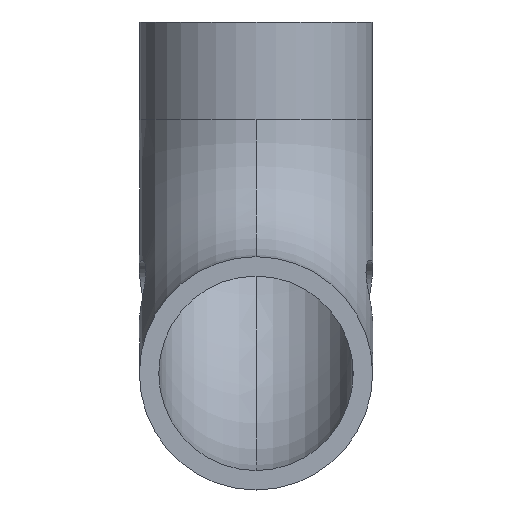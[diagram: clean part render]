
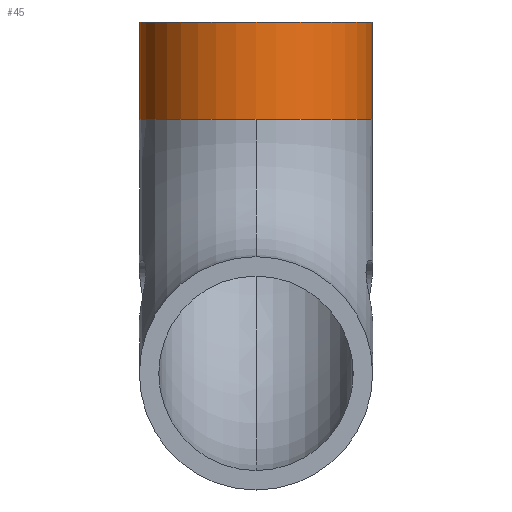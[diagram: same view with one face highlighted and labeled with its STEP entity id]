
A CAD part, front view. The second image highlights one B-rep face of the part: STEP entity #45.
In plain terms, the highlighted cylindrical face has radius 30.48 mm (diameter 60.96 mm), a partial arc.
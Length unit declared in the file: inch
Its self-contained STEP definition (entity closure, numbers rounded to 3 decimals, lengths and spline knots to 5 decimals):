
#15 = DIRECTION ( 'NONE',  ( 0., 0., -1. ) ) ;
#29 = ORIENTED_EDGE ( 'NONE', *, *, #477, .F. ) ;
#45 = ADVANCED_FACE ( 'NONE', ( #256 ), #270, .T. ) ;
#58 = ORIENTED_EDGE ( 'NONE', *, *, #946, .F. ) ;
#112 = AXIS2_PLACEMENT_3D ( 'NONE', #880, #875, #871 ) ;
#115 = AXIS2_PLACEMENT_3D ( 'NONE', #454, #15, #249 ) ;
#137 = CARTESIAN_POINT ( 'NONE',  ( 1.2, 1.2, 0. ) ) ;
#157 = VERTEX_POINT ( 'NONE', #297 ) ;
#169 = ORIENTED_EDGE ( 'NONE', *, *, #635, .F. ) ;
#175 = CARTESIAN_POINT ( 'NONE',  ( -1.2, 1.2, 0. ) ) ;
#244 = VERTEX_POINT ( 'NONE', #175 ) ;
#249 = DIRECTION ( 'NONE',  ( -1., 0., 0. ) ) ;
#253 = CIRCLE ( 'NONE', #115, 1.2 ) ;
#256 = FACE_OUTER_BOUND ( 'NONE', #807, .T. ) ;
#270 = CYLINDRICAL_SURFACE ( 'NONE', #773, 1.2 ) ;
#275 = DIRECTION ( 'NONE',  ( 1., 0., 0. ) ) ;
#277 = CARTESIAN_POINT ( 'NONE',  ( -1.2, 1.2, 0. ) ) ;
#290 = CIRCLE ( 'NONE', #841, 1.2 ) ;
#297 = CARTESIAN_POINT ( 'NONE',  ( 1.2, 1.2, -1. ) ) ;
#319 = VERTEX_POINT ( 'NONE', #350 ) ;
#350 = CARTESIAN_POINT ( 'NONE',  ( 0., 0., -1. ) ) ;
#392 = VERTEX_POINT ( 'NONE', #801 ) ;
#396 = ORIENTED_EDGE ( 'NONE', *, *, #837, .T. ) ;
#427 = DIRECTION ( 'NONE',  ( 0., 0., 1. ) ) ;
#454 = CARTESIAN_POINT ( 'NONE',  ( 0., 1.2, -1. ) ) ;
#477 = EDGE_CURVE ( 'NONE', #319, #911, #290, .T. ) ;
#488 = DIRECTION ( 'NONE',  ( -1., 0., 0. ) ) ;
#523 = CIRCLE ( 'NONE', #112, 1.2 ) ;
#578 = DIRECTION ( 'NONE',  ( 0., 0., 1. ) ) ;
#585 = VECTOR ( 'NONE', #427, 39.37008 ) ;
#598 = VECTOR ( 'NONE', #578, 39.37008 ) ;
#619 = CARTESIAN_POINT ( 'NONE',  ( -1.2, 1.2, -1. ) ) ;
#635 = EDGE_CURVE ( 'NONE', #244, #392, #523, .T. ) ;
#644 = CARTESIAN_POINT ( 'NONE',  ( 0., 1.2, -1. ) ) ;
#651 = CARTESIAN_POINT ( 'NONE',  ( 0., 1.2, 0. ) ) ;
#657 = ORIENTED_EDGE ( 'NONE', *, *, #712, .F. ) ;
#659 = LINE ( 'NONE', #137, #585 ) ;
#712 = EDGE_CURVE ( 'NONE', #911, #244, #936, .T. ) ;
#773 = AXIS2_PLACEMENT_3D ( 'NONE', #651, #933, #275 ) ;
#801 = CARTESIAN_POINT ( 'NONE',  ( 1.2, 1.2, 0. ) ) ;
#807 = EDGE_LOOP ( 'NONE', ( #657, #29, #58, #396, #169 ) ) ;
#837 = EDGE_CURVE ( 'NONE', #157, #392, #659, .T. ) ;
#841 = AXIS2_PLACEMENT_3D ( 'NONE', #644, #856, #488 ) ;
#856 = DIRECTION ( 'NONE',  ( 0., 0., -1. ) ) ;
#871 = DIRECTION ( 'NONE',  ( 1., 0., 0. ) ) ;
#875 = DIRECTION ( 'NONE',  ( 0., 0., 1. ) ) ;
#880 = CARTESIAN_POINT ( 'NONE',  ( 0., 1.2, 0. ) ) ;
#911 = VERTEX_POINT ( 'NONE', #619 ) ;
#933 = DIRECTION ( 'NONE',  ( 0., 0., 1. ) ) ;
#936 = LINE ( 'NONE', #277, #598 ) ;
#946 = EDGE_CURVE ( 'NONE', #157, #319, #253, .T. ) ;
